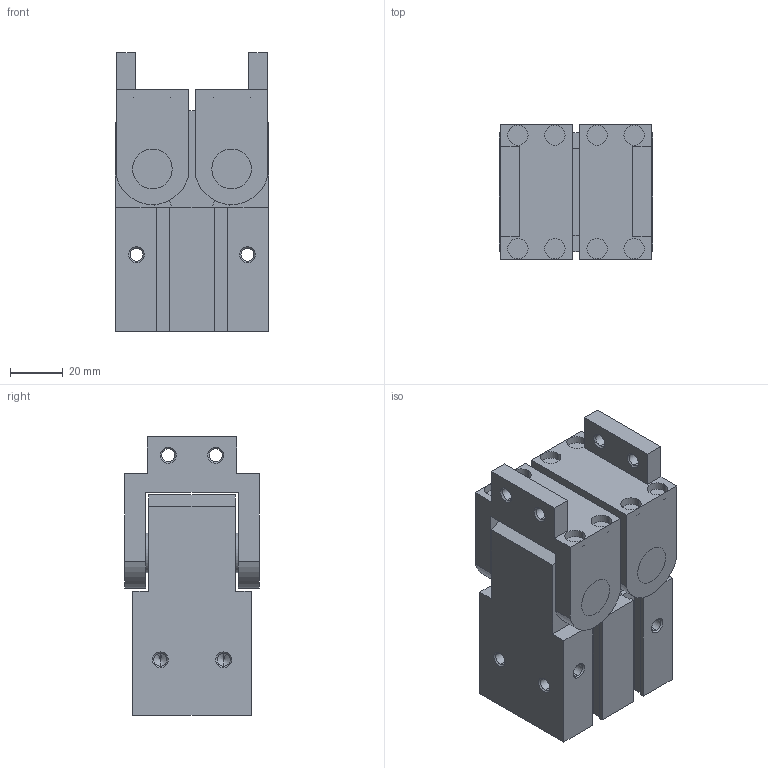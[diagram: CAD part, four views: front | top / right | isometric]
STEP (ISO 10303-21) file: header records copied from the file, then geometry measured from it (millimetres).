
FILE_DESCRIPTION (( 'STEP AP203' ), '1' );
FILE_NAME ('CHW2-32D1.STEP', '2020-04-02T13:34:33', ( '' ), ( '' ), 'SwSTEP 2.0', 'SolidWorks 2019', '' );
FILE_SCHEMA (( 'CONFIG_CONTROL_DESIGN' ));
Length unit declared in the file: millimetre
Products named in the file (1): CHW2-32D1
Bounding box: 58 x 51 x 105.5 mm (x, y, z)
Volume: 230956.3 mm3; surface area: 48444.8 mm2
Topology: 3 solids, 3 shells, 217 faces, 534 edges, 334 vertices
Faces by surface type: plane 89, cylinder 80, cone 48
Entity records: 6429 total; most frequent: DIRECTION 1154, CARTESIAN_POINT 1074, ORIENTED_EDGE 1044, EDGE_CURVE 522, AXIS2_PLACEMENT_3D 414, VERTEX_POINT 334, VECTOR 326, LINE 326
